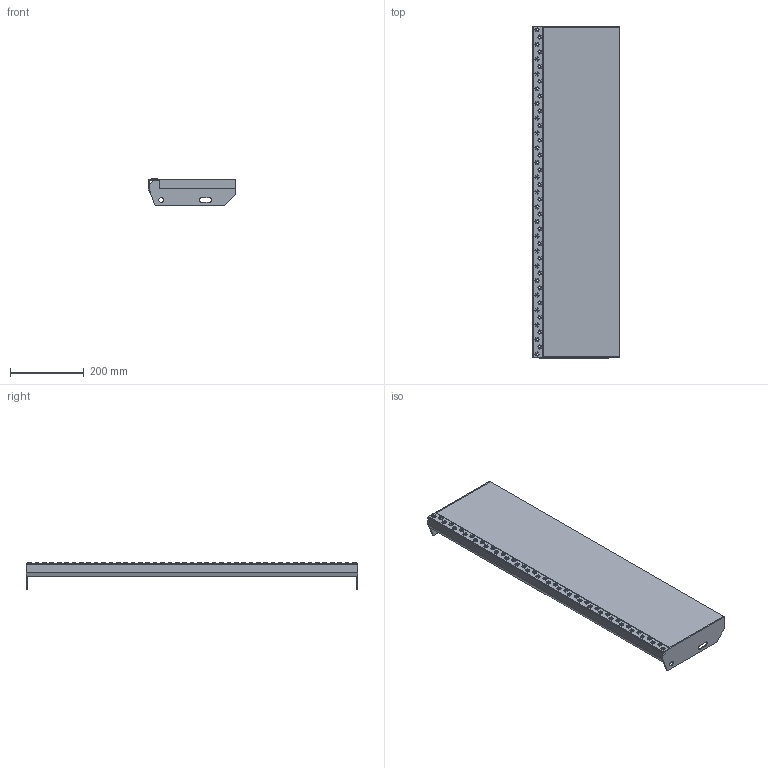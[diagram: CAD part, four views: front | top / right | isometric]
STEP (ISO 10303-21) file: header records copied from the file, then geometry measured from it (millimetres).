
FILE_DESCRIPTION(('Open CASCADE Model'),'2;1');
FILE_NAME('Open CASCADE Shape Model','2019-03-13T09:53:33',('Author'),( 'Open CASCADE'),'Open CASCADE STEP processor 7.2','Open CASCADE 7.2' ,'Unknown');
FILE_SCHEMA(('AUTOMOTIVE_DESIGN { 1 0 10303 214 1 1 1 1 }'));
Length unit declared in the file: millimetre
Products named in the file (1415): Open CASCADE STEP translator 7.2 1; Open CASCADE STEP translator 7.2 2; Open CASCADE STEP translator 7.2 3; Open CASCADE STEP translator 7.2 3.1; Open CASCADE STEP translator 7.2 3.2; Open CASCADE STEP translator 7.2 3.3; Open CASCADE STEP translator 7.2 3.4; Open CASCADE STEP translator 7.2 3.5; Open CASCADE STEP translator 7.2 3.6; Open CASCADE STEP translator 7.2 3.7; Open CASCADE STEP translator 7.2 3.8; Open CASCADE STEP translator 7.2 3.9; Open CASCADE STEP translator 7.2 3.10; Open CASCADE STEP translator 7.2 3.11; Open CASCADE STEP translator 7.2 3.12; Open CASCADE STEP translator 7.2 3.13; Open CASCADE STEP translator 7.2 3.14; Open CASCADE STEP translator 7.2 3.15; Open CASCADE STEP translator 7.2 3.16; Open CASCADE STEP translator 7.2 3.17; Open CASCADE STEP translator 7.2 3.18; Open CASCADE STEP translator 7.2 3.19; Open CASCADE STEP translator 7.2 3.20; Open CASCADE STEP translator 7.2 3.21; Open CASCADE STEP translator 7.2 3.22; Open CASCADE STEP translator 7.2 3.23; Open CASCADE STEP translator 7.2 3.24; Open CASCADE STEP translator 7.2 3.25; Open CASCADE STEP translator 7.2 3.26; Open CASCADE STEP translator 7.2 3.27; Open CASCADE STEP translator 7.2 3.28; Open CASCADE STEP translator 7.2 3.29; Open CASCADE STEP translator 7.2 3.30; Open CASCADE STEP translator 7.2 3.31; Open CASCADE STEP translator 7.2 3.32; Open CASCADE STEP translator 7.2 3.33; Open CASCADE STEP translator 7.2 3.34; Open CASCADE STEP translator 7.2 3.35; Open CASCADE STEP translator 7.2 3.36; Open CASCADE STEP translator 7.2 3.37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
Assembly tree (1411 placements, depth 2):
  Open CASCADE STEP translator 7.2 1
  Open CASCADE STEP translator 7.2 2
  Open CASCADE STEP translator 7.2 3
    Open CASCADE STEP translator 7.2 3.1
    Open CASCADE STEP translator 7.2 3.2
    Open CASCADE STEP translator 7.2 3.3
    Open CASCADE STEP translator 7.2 3.4
    Open CASCADE STEP translator 7.2 3.5
    Open CASCADE STEP translator 7.2 3.6
    Open CASCADE STEP translator 7.2 3.7
    Open CASCADE STEP translator 7.2 3.8
    Open CASCADE STEP translator 7.2 3.9
    Open CASCADE STEP translator 7.2 3.10
    Open CASCADE STEP translator 7.2 3.11
    Open CASCADE STEP translator 7.2 3.12
    Open CASCADE STEP translator 7.2 3.13
    Open CASCADE STEP translator 7.2 3.14
    Open CASCADE STEP translator 7.2 3.15
    Open CASCADE STEP translator 7.2 3.16
    Open CASCADE STEP translator 7.2 3.17
    Open CASCADE STEP translator 7.2 3.18
    Open CASCADE STEP translator 7.2 3.19
    Open CASCADE STEP translator 7.2 3.20
    Open CASCADE STEP translator 7.2 3.21
    Open CASCADE STEP translator 7.2 3.22
    Open CASCADE STEP translator 7.2 3.23
    Open CASCADE STEP translator 7.2 3.24
    Open CASCADE STEP translator 7.2 3.25
    Open CASCADE STEP translator 7.2 3.26
    Open CASCADE STEP translator 7.2 3.27
    Open CASCADE STEP translator 7.2 3.28
    Open CASCADE STEP translator 7.2 3.29
    Open CASCADE STEP translator 7.2 3.30
    Open CASCADE STEP translator 7.2 3.31
    Open CASCADE STEP translator 7.2 3.32
    Open CASCADE STEP translator 7.2 3.33
    Open CASCADE STEP translator 7.2 3.34
    Open CASCADE STEP translator 7.2 3.35
    Open CASCADE STEP translator 7.2 3.36
    Open CASCADE STEP translator 7.2 3.37
    Open CASCADE STEP translator 7.2 3.38
    Open CASCADE STEP translator 7.2 3.39
    Open CASCADE STEP translator 7.2 3.40
    Open CASCADE STEP translator 7.2 3.41
    Open CASCADE STEP translator 7.2 3.42
    Open CASCADE STEP translator 7.2 3.43
    Open CASCADE STEP translator 7.2 3.44
    Open CASCADE STEP translator 7.2 3.45
    Open CASCADE STEP translator 7.2 3.46
    Open CASCADE STEP translator 7.2 3.47
    Open CASCADE STEP translator 7.2 3.48
    Open CASCADE STEP translator 7.2 3.49
    Open CASCADE STEP translator 7.2 3.50
    Open CASCADE STEP translator 7.2 3.51
    Open CASCADE STEP translator 7.2 3.52
    Open CASCADE STEP translator 7.2 3.53
    Open CASCADE STEP translator 7.2 3.54
    Open CASCADE STEP translator 7.2 3.55
    Open CASCADE STEP translator 7.2 3.56
    Open CASCADE STEP translator 7.2 3.57
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Bounding box: 237 x 900 x 73 mm (x, y, z)
Volume: 4727421.2 mm3; surface area: 607807.3 mm2
Topology: 3 solids, 1414 shells, 1449 faces, 7740 edges, 7708 vertices
Faces by surface type: plane 1443, cylinder 6
Full cylindrical faces by diameter (mm): 13 x2
Entity records: 157062 total; most frequent: CARTESIAN_POINT 26241, DIRECTION 21274, LINE 15528, VECTOR 15528, ORIENTED_EDGE 7836, PCURVE 7836, DEFINITIONAL_REPRESENTATION 7836, EDGE_CURVE 7740
